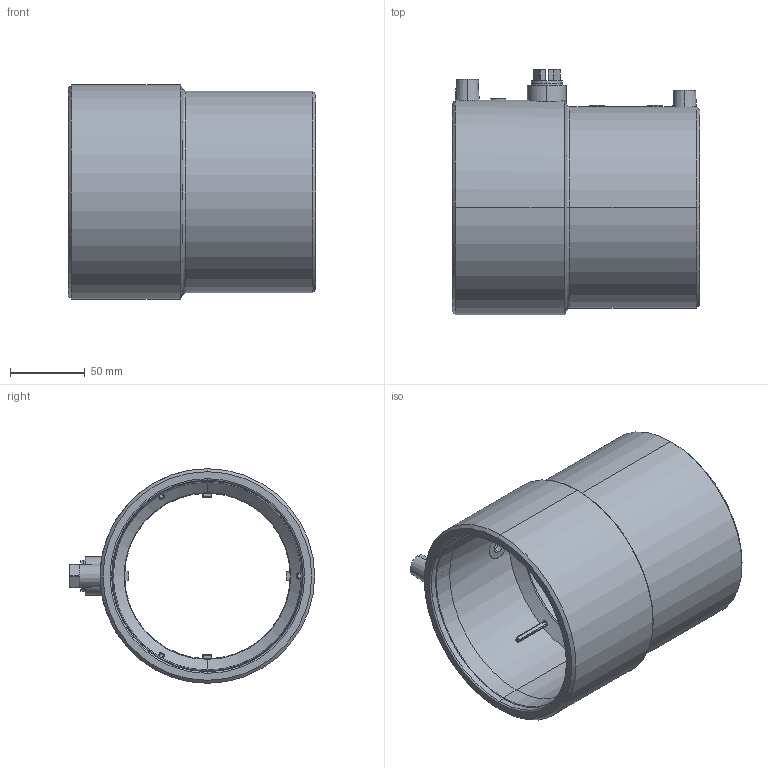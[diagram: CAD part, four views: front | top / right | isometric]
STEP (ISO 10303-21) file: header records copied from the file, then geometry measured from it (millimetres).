
FILE_DESCRIPTION (( 'STEP AP203' ), '1' );
FILE_NAME ('KPT_125-110SC-04.step', '2011-08-08T11:52:27', ( '' ), ( '' ), 'SwSTEP 2.0', 'SolidWorks 2011', '' );
FILE_SCHEMA (( 'CONFIG_CONTROL_DESIGN' ));
Length unit declared in the file: millimetre
Products named in the file (1): KPT_125-110SC-04
Bounding box: 165 x 163.7 x 143.2 mm (x, y, z)
Volume: 675540.5 mm3; surface area: 239849.7 mm2
Topology: 1 solids, 7 shells, 516 faces, 1314 edges, 809 vertices
Faces by surface type: cylinder 236, plane 124, cone 72, bspline 35, torus 27, sphere 22
Entity records: 23319 total; most frequent: CARTESIAN_POINT 11598, ORIENTED_EDGE 2580, DIRECTION 2309, EDGE_CURVE 1290, AXIS2_PLACEMENT_3D 900, VERTEX_POINT 805, EDGE_LOOP 555, FACE_OUTER_BOUND 516
